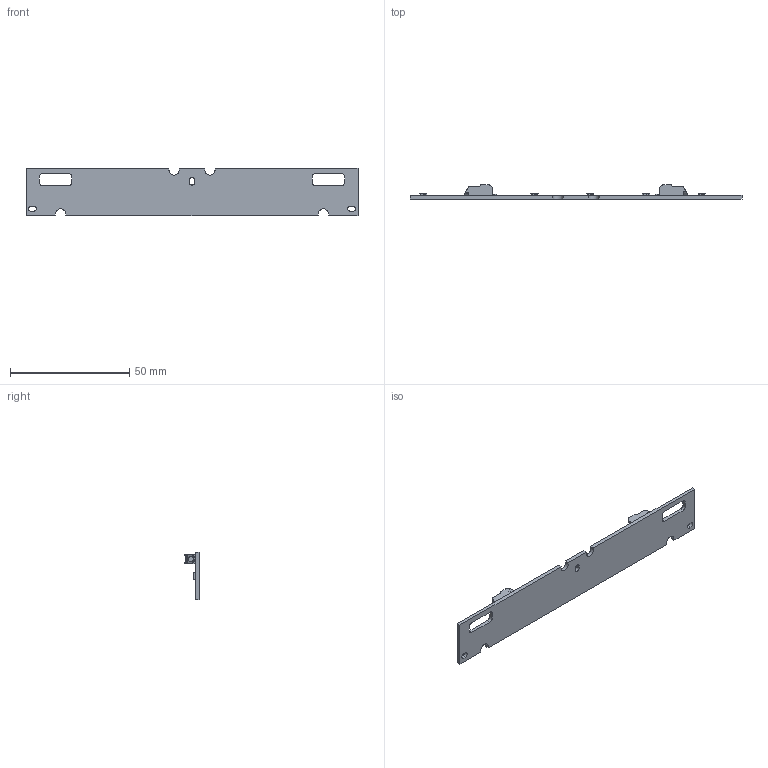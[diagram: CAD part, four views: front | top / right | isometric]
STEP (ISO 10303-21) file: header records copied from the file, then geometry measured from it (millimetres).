
FILE_DESCRIPTION (( 'STEP AP214' ), '1' );
FILE_NAME ('WU-M-580-TC.STEP', '2017-07-05T11:02:45', ( 'Admin' ), ( 'Microsoft' ), 'SwSTEP 2.0', 'SolidWorks 2017', '' );
FILE_SCHEMA (( 'AUTOMOTIVE_DESIGN' ));
Length unit declared in the file: millimetre
Products named in the file (19): STW8C2PB-E1; Built-In LED Module-4mm; VSO-Logo-3mm; CE-Zeichen-4mm; WU-M-580 PCB; WU-M-580-TC; 2060_401
Assembly tree (12 placements, depth 2):
  STW8C2PB-E1
  Built-In LED Module-4mm
  VSO-Logo-3mm
  CE-Zeichen-4mm
  WU-M-580 PCB
Bounding box: 139 x 6 x 20 mm (x, y, z)
Volume: 4430.8 mm3; surface area: 6638.3 mm2
Topology: 18 solids, 18 shells, 1947 faces, 5207 edges, 3470 vertices
Faces by surface type: plane 1233, bspline 482, cylinder 232
Entity records: 85837 total; most frequent: CARTESIAN_POINT 36855, ORIENTED_EDGE 8228, DIRECTION 5500, EDGE_CURVE 4114, VECTOR 2892, LINE 2892, VERTEX_POINT 2743, EDGE_LOOP 1667
